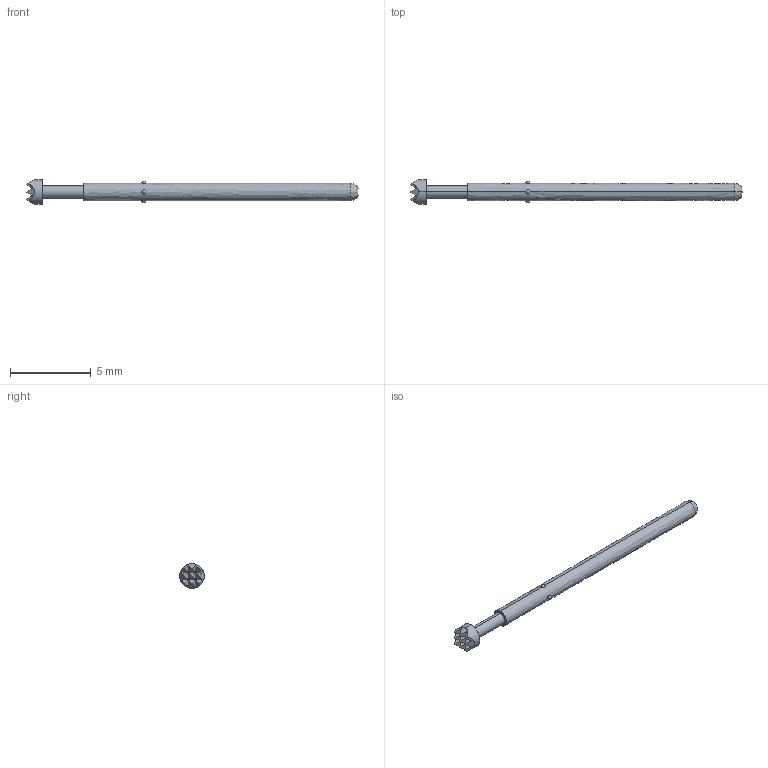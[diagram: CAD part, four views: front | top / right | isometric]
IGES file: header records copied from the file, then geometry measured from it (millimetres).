
Start section: SolidWorks IGES file using analytic representation for surfaces
Global section: file name: O:\PYLON\IGES FILES\P2663\P2663G-1W1S.IGS; native system: SolidWorks 2015; preprocessor: SolidWorks 2015; author: kgolden; date: 171019.105623; units: inch
Bounding box: 20.53 x 1.52 x 1.52 mm (x, y, z)
Surface area: 76.4 mm2 (no closed solid volume)
Topology: 0 solids, 0 shells, 49 faces, 402 edges, 386 vertices
Faces by surface type: bspline 33, revolution 16
